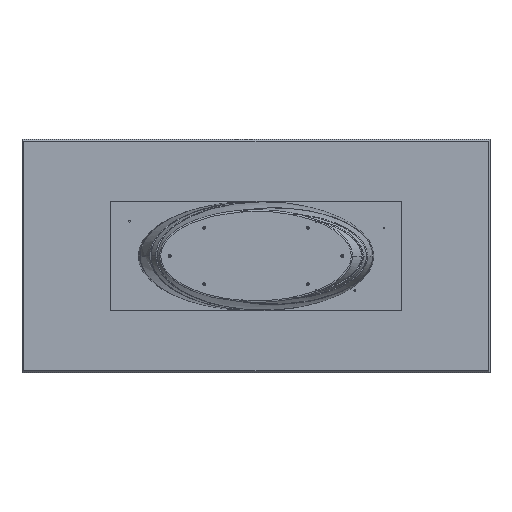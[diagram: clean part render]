
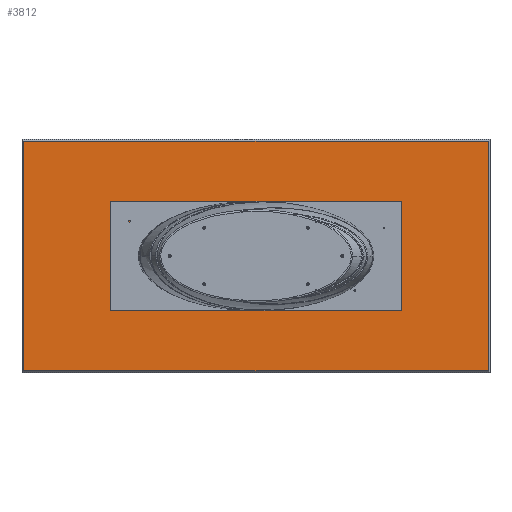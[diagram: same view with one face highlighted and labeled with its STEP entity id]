
A CAD part, front view. The second image highlights one B-rep face of the part: STEP entity #3812.
In plain terms, the highlighted planar face has unit normal (0, -1, 0).
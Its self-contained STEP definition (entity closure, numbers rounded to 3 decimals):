
#896 = EDGE_CURVE ( 'NONE', #2660, #32223, #36811, .T. ) ;
#2381 = DIRECTION ( 'NONE',  ( -1., 0., 0. ) ) ;
#2660 = VERTEX_POINT ( 'NONE', #7532 ) ;
#2726 = EDGE_CURVE ( 'NONE', #35073, #2660, #37008, .T. ) ;
#3139 = CARTESIAN_POINT ( 'NONE',  ( 0., 50., 0. ) ) ;
#3211 = VECTOR ( 'NONE', #27820, 1000. ) ;
#3812 = ADVANCED_FACE ( 'NONE', ( #23154 ), #36973, .T. ) ;
#4031 = EDGE_LOOP ( 'NONE', ( #13115, #14198, #17279, #20426 ) ) ;
#4526 = CARTESIAN_POINT ( 'NONE',  ( -1187., 50., -587. ) ) ;
#7532 = CARTESIAN_POINT ( 'NONE',  ( 1187., 50., -587. ) ) ;
#8713 = EDGE_CURVE ( 'NONE', #32223, #16899, #19546, .T. ) ;
#10331 = AXIS2_PLACEMENT_3D ( 'NONE', #3139, #14088, #28633 ) ;
#10915 = CARTESIAN_POINT ( 'NONE',  ( 1187., 50., 595. ) ) ;
#11542 = VECTOR ( 'NONE', #19788, 1000. ) ;
#13115 = ORIENTED_EDGE ( 'NONE', *, *, #34567, .T. ) ;
#14088 = DIRECTION ( 'NONE',  ( 0., -1., 0. ) ) ;
#14198 = ORIENTED_EDGE ( 'NONE', *, *, #2726, .T. ) ;
#16899 = VERTEX_POINT ( 'NONE', #24311 ) ;
#17279 = ORIENTED_EDGE ( 'NONE', *, *, #896, .T. ) ;
#17327 = CARTESIAN_POINT ( 'NONE',  ( 1195., 50., -587. ) ) ;
#18212 = LINE ( 'NONE', #29714, #3211 ) ;
#19546 = LINE ( 'NONE', #28042, #33298 ) ;
#19788 = DIRECTION ( 'NONE',  ( 1., 0., 0. ) ) ;
#20426 = ORIENTED_EDGE ( 'NONE', *, *, #8713, .T. ) ;
#20564 = VECTOR ( 'NONE', #22437, 1000. ) ;
#22437 = DIRECTION ( 'NONE',  ( 0., 0., 1. ) ) ;
#23154 = FACE_OUTER_BOUND ( 'NONE', #4031, .T. ) ;
#24311 = CARTESIAN_POINT ( 'NONE',  ( -1187., 50., 587. ) ) ;
#27820 = DIRECTION ( 'NONE',  ( 0., 0., -1. ) ) ;
#28042 = CARTESIAN_POINT ( 'NONE',  ( -1195., 50., 587. ) ) ;
#28633 = DIRECTION ( 'NONE',  ( 0., 0., -1. ) ) ;
#29714 = CARTESIAN_POINT ( 'NONE',  ( -1187., 50., -595. ) ) ;
#32223 = VERTEX_POINT ( 'NONE', #35281 ) ;
#33298 = VECTOR ( 'NONE', #2381, 1000. ) ;
#34567 = EDGE_CURVE ( 'NONE', #16899, #35073, #18212, .T. ) ;
#35073 = VERTEX_POINT ( 'NONE', #4526 ) ;
#35281 = CARTESIAN_POINT ( 'NONE',  ( 1187., 50., 587. ) ) ;
#36811 = LINE ( 'NONE', #10915, #20564 ) ;
#36973 = PLANE ( 'NONE',  #10331 ) ;
#37008 = LINE ( 'NONE', #17327, #11542 ) ;
